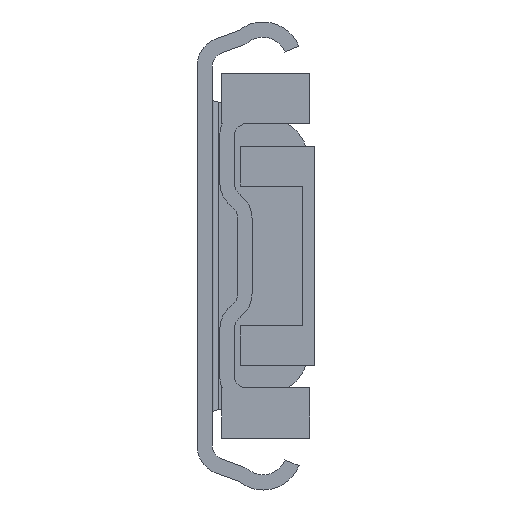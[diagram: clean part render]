
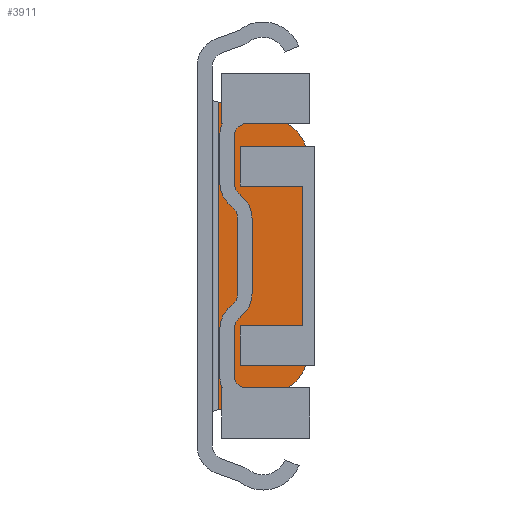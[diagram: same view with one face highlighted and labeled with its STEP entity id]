
A CAD part, front view. The second image highlights one B-rep face of the part: STEP entity #3911.
In plain terms, the highlighted planar face has unit normal (0, -1, 0).
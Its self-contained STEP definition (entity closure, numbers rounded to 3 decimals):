
#337=LINE('',#6723,#720);
#338=LINE('',#6728,#721);
#339=LINE('',#6732,#722);
#340=LINE('',#6734,#723);
#720=VECTOR('',#5567,1000.);
#721=VECTOR('',#5570,1000.);
#722=VECTOR('',#5573,1000.);
#723=VECTOR('',#5574,1000.);
#887=PLANE('',#4633);
#1739=ORIENTED_EDGE('',*,*,#2451,.F.);
#1740=ORIENTED_EDGE('',*,*,#2452,.F.);
#1741=ORIENTED_EDGE('',*,*,#2453,.F.);
#1742=ORIENTED_EDGE('',*,*,#2454,.F.);
#1743=ORIENTED_EDGE('',*,*,#2455,.F.);
#1744=ORIENTED_EDGE('',*,*,#2456,.F.);
#2451=EDGE_CURVE('',#2882,#2883,#337,.T.);
#2452=EDGE_CURVE('',#2884,#2882,#3104,.F.);
#2453=EDGE_CURVE('',#2885,#2884,#338,.T.);
#2454=EDGE_CURVE('',#2886,#2885,#3105,.F.);
#2455=EDGE_CURVE('',#2887,#2886,#339,.T.);
#2456=EDGE_CURVE('',#2883,#2887,#340,.T.);
#2882=VERTEX_POINT('',#6724);
#2883=VERTEX_POINT('',#6725);
#2884=VERTEX_POINT('',#6727);
#2885=VERTEX_POINT('',#6729);
#2886=VERTEX_POINT('',#6731);
#2887=VERTEX_POINT('',#6733);
#3104=CIRCLE('',#4634,8.);
#3105=CIRCLE('',#4635,8.);
#3341=EDGE_LOOP('',(#1739,#1740,#1741,#1742,#1743,#1744));
#3602=FACE_BOUND('',#3341,.T.);
#3911=ADVANCED_FACE('',(#3602),#887,.T.);
#4633=AXIS2_PLACEMENT_3D('',#6722,#5565,#5566);
#4634=AXIS2_PLACEMENT_3D('',#6726,#5568,#5569);
#4635=AXIS2_PLACEMENT_3D('',#6730,#5571,#5572);
#5565=DIRECTION('',(0.,-1.,0.));
#5566=DIRECTION('',(0.,0.,-1.));
#5567=DIRECTION('',(-0.966,0.,-0.259));
#5568=DIRECTION('',(0.,-1.,0.));
#5569=DIRECTION('',(0.,0.,-1.));
#5570=DIRECTION('',(0.,0.,-1.));
#5571=DIRECTION('',(0.,-1.,0.));
#5572=DIRECTION('',(0.,0.,-1.));
#5573=DIRECTION('',(0.966,0.,-0.259));
#5574=DIRECTION('',(0.,0.,1.));
#6722=CARTESIAN_POINT('',(12.9,962.7,14.965));
#6723=CARTESIAN_POINT('',(22.316,962.7,-20.174));
#6724=CARTESIAN_POINT('',(12.471,962.7,-22.812));
#6725=CARTESIAN_POINT('',(3.5,962.7,-25.216));
#6726=CARTESIAN_POINT('',(10.4,962.7,-15.085));
#6727=CARTESIAN_POINT('',(18.4,962.7,-15.085));
#6728=CARTESIAN_POINT('',(18.4,962.7,14.965));
#6729=CARTESIAN_POINT('',(18.4,962.7,15.085));
#6730=CARTESIAN_POINT('',(10.4,962.7,15.085));
#6731=CARTESIAN_POINT('',(12.471,962.7,22.812));
#6732=CARTESIAN_POINT('',(14.833,962.7,22.179));
#6733=CARTESIAN_POINT('',(3.5,962.7,25.216));
#6734=CARTESIAN_POINT('',(3.5,962.7,-25.766));
